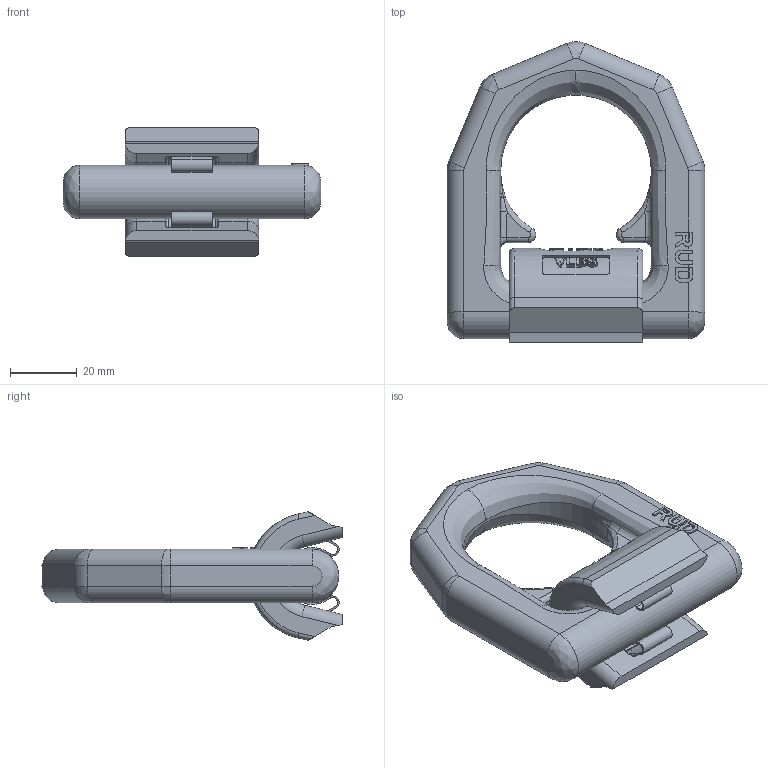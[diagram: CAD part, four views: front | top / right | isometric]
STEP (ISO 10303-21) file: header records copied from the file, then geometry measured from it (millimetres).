
FILE_DESCRIPTION((''),'2;1');
FILE_NAME('001-M34884-P3_ASM','2017-10-05T',('anja.joas'),(''),'PRO/ENGINEER BY PARAMETRIC TECHNOLOGY CORPORATION, 2011490','PRO/ENGINEER BY PARAMETRIC TECHNOLOGY CORPORATION, 2011490','');
FILE_SCHEMA(('CONFIG_CONTROL_DESIGN'));
Length unit declared in the file: millimetre
Products named in the file (4): 001-M34884-P2; 001-M34884-P1; 001-M35147-RT331; 001-M34884-P3_ASM
Assembly tree (3 placements, depth 2):
  001-M34884-P3_ASM
    001-M34884-P2
    001-M34884-P1
    001-M35147-RT331
Bounding box: 77 x 89.73 x 38.42 mm (x, y, z)
Volume: 71976.9 mm3; surface area: 21784.4 mm2
Topology: 3 solids, 3 shells, 452 faces, 1182 edges, 752 vertices
Faces by surface type: plane 172, cylinder 105, extrusion 87, bspline 62, torus 26
Entity records: 26892 total; most frequent: CARTESIAN_POINT 16383, ORIENTED_EDGE 2364, DIRECTION 1833, EDGE_CURVE 1182, VERTEX_POINT 752, VECTOR 629, AXIS2_PLACEMENT_3D 602, LINE 542
